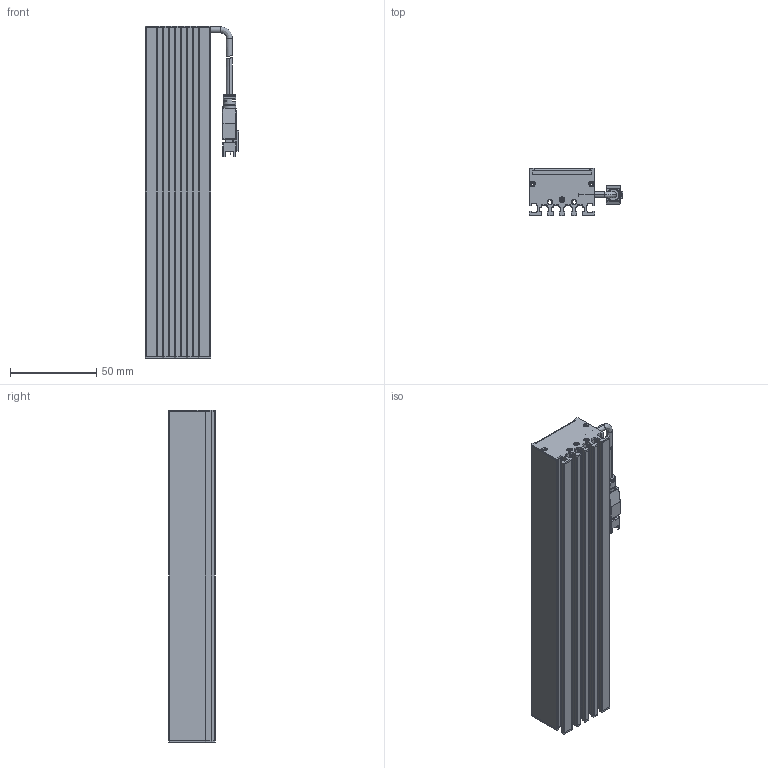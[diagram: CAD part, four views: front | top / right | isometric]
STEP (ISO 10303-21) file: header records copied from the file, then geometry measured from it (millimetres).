
FILE_DESCRIPTION (( 'STEP AP203' ), '1' );
FILE_NAME ('LBD-192L-潠眢3D芞.STEP', '2021-06-16T07:37:43', ( 'Windows 蚚誧' ), ( 'Organization' ), 'SwSTEP 2.0', 'SolidWorks 2018', '' );
FILE_SCHEMA (( 'CONFIG_CONTROL_DESIGN' ));
Length unit declared in the file: millimetre
Products named in the file (1): LBD-192L-潠眢3D芞
Bounding box: 54.16 x 27 x 192 mm (x, y, z)
Surface area: 76961.6 mm2 (no closed solid volume)
Topology: 0 solids, 8 shells, 889 faces, 2541 edges, 1653 vertices
Faces by surface type: plane 458, cylinder 369, cone 28, bspline 28, torus 6
Entity records: 29635 total; most frequent: CARTESIAN_POINT 5977, ORIENTED_EDGE 5003, DIRECTION 4968, EDGE_CURVE 2525, LINE 1676, VECTOR 1676, VERTEX_POINT 1653, AXIS2_PLACEMENT_3D 1646
